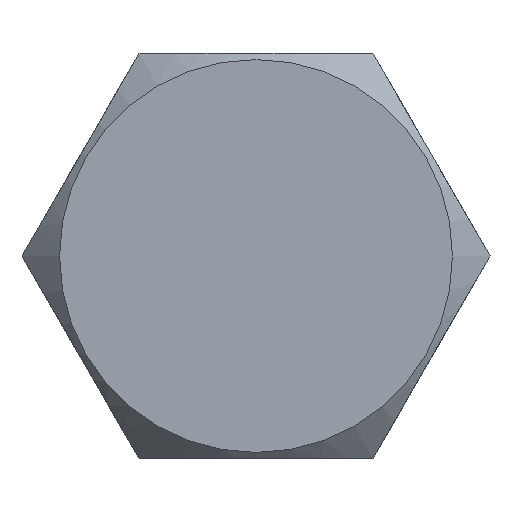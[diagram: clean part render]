
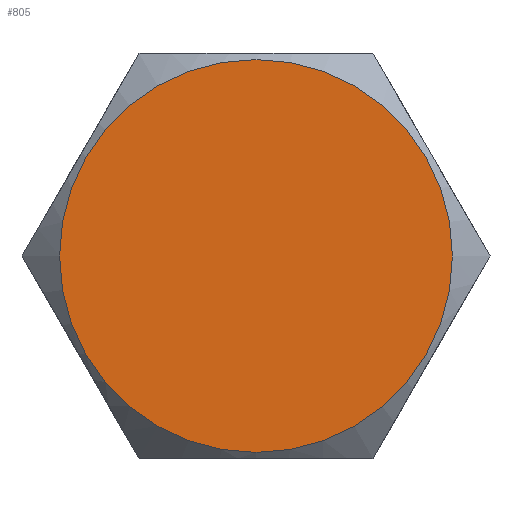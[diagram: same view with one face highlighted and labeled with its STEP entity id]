
A CAD part, front view. The second image highlights one B-rep face of the part: STEP entity #805.
In plain terms, the highlighted planar face has unit normal (0, -1, 0).
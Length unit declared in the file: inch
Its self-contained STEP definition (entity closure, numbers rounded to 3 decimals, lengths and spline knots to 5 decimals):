
#61=PLANE('',#917);
#182=FACE_OUTER_BOUND('',#234,.T.);
#234=EDGE_LOOP('',(#659));
#288=CIRCLE('',#916,0.3635);
#376=VERTEX_POINT('',#1464);
#478=EDGE_CURVE('',#376,#376,#288,.T.);
#659=ORIENTED_EDGE('',*,*,#478,.F.);
#805=ADVANCED_FACE('',(#182),#61,.T.);
#916=AXIS2_PLACEMENT_3D('',#1465,#1108,#1109);
#917=AXIS2_PLACEMENT_3D('',#1467,#1111,#1112);
#1108=DIRECTION('center_axis',(0.,1.,0.));
#1109=DIRECTION('ref_axis',(0.,0.,1.));
#1111=DIRECTION('center_axis',(0.,-1.,0.));
#1112=DIRECTION('ref_axis',(0.,0.,-1.));
#1464=CARTESIAN_POINT('',(0.,0.,-0.3635));
#1465=CARTESIAN_POINT('Origin',(0.,0.,0.));
#1467=CARTESIAN_POINT('Origin',(0.,0.,0.));
